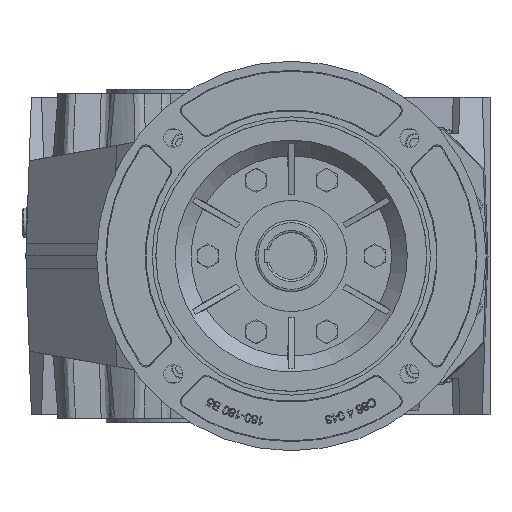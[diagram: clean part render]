
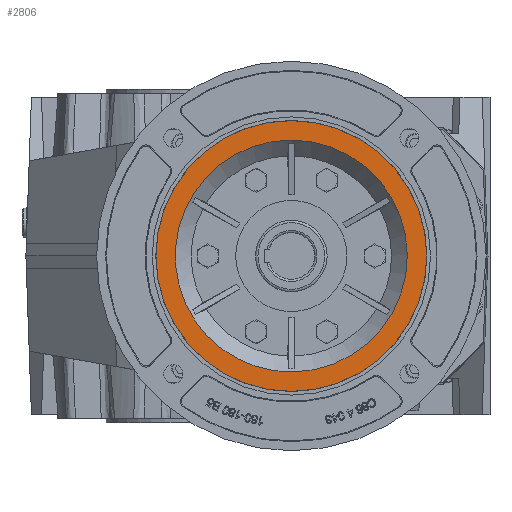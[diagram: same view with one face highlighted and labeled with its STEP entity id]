
A CAD part, left-side view. The second image highlights one B-rep face of the part: STEP entity #2806.
In plain terms, the highlighted planar face has unit normal (-1, 0, 0).
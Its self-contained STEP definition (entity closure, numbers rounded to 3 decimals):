
#2806 = ADVANCED_FACE( '', ( #6862, #6863 ), #6864, .F. );
#6862 = FACE_OUTER_BOUND( '', #14380, .T. );
#6863 = FACE_BOUND( '', #14381, .T. );
#6864 = PLANE( '', #14382 );
#14380 = EDGE_LOOP( '', ( #24754 ) );
#14381 = EDGE_LOOP( '', ( #24755 ) );
#14382 = AXIS2_PLACEMENT_3D( '', #24756, #24757, #24758 );
#24754 = ORIENTED_EDGE( '', *, *, #37071, .F. );
#24755 = ORIENTED_EDGE( '', *, *, #37072, .T. );
#24756 = CARTESIAN_POINT( '', ( -487.5, -86.5, -121.669 ) );
#24757 = DIRECTION( '', ( 1., 0., 0. ) );
#24758 = DIRECTION( '', ( 0., 0., 1. ) );
#37071 = EDGE_CURVE( '', #44257, #44257, #44258, .T. );
#37072 = EDGE_CURVE( '', #44259, #44259, #44260, .T. );
#44257 = VERTEX_POINT( '', #58188 );
#44258 = CIRCLE( '', #58189, 121.669 );
#44259 = VERTEX_POINT( '', #58190 );
#44260 = CIRCLE( '', #58191, 104.2 );
#58188 = CARTESIAN_POINT( '', ( -487.5, -86.5, 121.669 ) );
#58189 = AXIS2_PLACEMENT_3D( '', #68502, #68503, #68504 );
#58190 = CARTESIAN_POINT( '', ( -487.5, -86.5, 104.2 ) );
#58191 = AXIS2_PLACEMENT_3D( '', #68505, #68506, #68507 );
#68502 = CARTESIAN_POINT( '', ( -487.5, -86.5, 0. ) );
#68503 = DIRECTION( '', ( 1., 0., 0. ) );
#68504 = DIRECTION( '', ( 0., 0., 1. ) );
#68505 = CARTESIAN_POINT( '', ( -487.5, -86.5, 0. ) );
#68506 = DIRECTION( '', ( 1., 0., 0. ) );
#68507 = DIRECTION( '', ( 0., 0., 1. ) );
